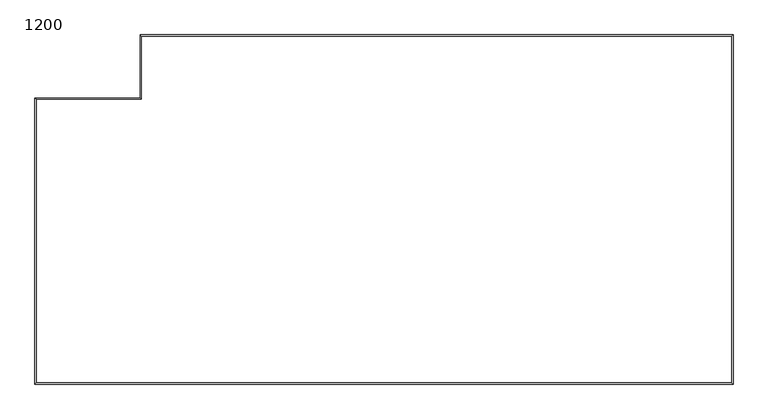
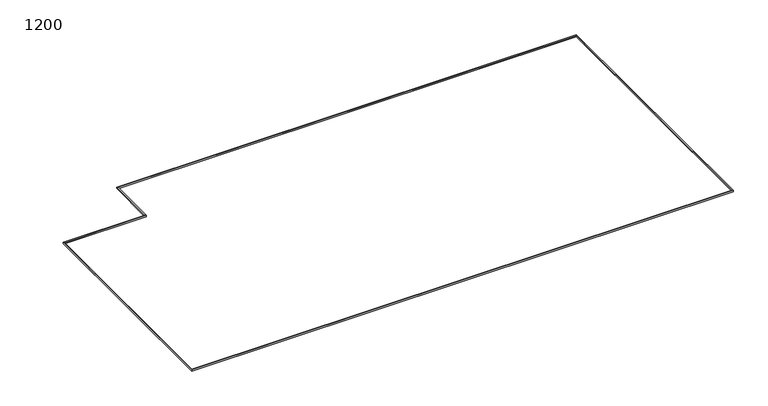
"""IFC4 building model written with IfcOpenShell, lengths in millimetres: railing geometry, 1200."""

from ifc_helpers import new_model, si_unit, origin, place, context, project, spatial, faceted_brep, source, transform, mapped, element, save


def railing_1200_e5c0dd45(model_context):
    return source(origin(), model_context, "Body", "Brep", [
        faceted_brep([(161205.4000001, 127625.3999987, 30073.8), (161205.4000001, 127625.3999987, 30150.0), (161205.4000001, 111574.5999987, 30150.0), (161205.4000001, 111574.5999987, 30073.8), (161154.6000001, 127574.5999987, 30073.8), (161154.6000001, 111625.3999987, 30073.8), (161154.6000001, 127574.5999987, 30150.0), (161154.6000001, 111625.3999987, 30150.0), (129154.6000001, 111574.5999987, 30150.0), (129154.6000001, 111574.5999987, 30073.8), (129205.4000001, 111625.3999987, 30073.8), (129205.4000001, 111625.3999987, 30150.0), (129154.6000001, 124725.3999987, 30150.0), (129154.6000001, 124725.3999987, 30073.8), (129205.4000001, 124674.5999987, 30073.8), (129205.4000001, 124674.5999987, 30150.0), (133994.6000001, 127625.3999987, 30073.8), (133994.6000001, 127625.3999987, 30150.0), (134045.4000001, 127574.5999987, 30073.8), (134045.4000001, 127574.5999987, 30150.0), (133994.6000001, 124725.3999987, 30150.0), (133994.6000001, 124725.3999987, 30073.8), (134045.4000001, 124674.5999987, 30073.8), (134045.4000001, 124674.5999987, 30150.0)], [[[0, 1, 2, 3]], [[4, 0, 3, 5]], [[6, 4, 5, 7]], [[1, 6, 7, 2]], [[3, 2, 8, 9]], [[5, 3, 9, 10]], [[7, 5, 10, 11]], [[2, 7, 11, 8]], [[9, 8, 12, 13]], [[10, 9, 13, 14]], [[11, 10, 14, 15]], [[8, 11, 15, 12]], [[16, 17, 1, 0]], [[18, 16, 0, 4]], [[19, 18, 4, 6]], [[17, 19, 6, 1]], [[13, 12, 20, 21]], [[14, 13, 21, 22]], [[15, 14, 22, 23]], [[12, 15, 23, 20]], [[21, 20, 17, 16]], [[22, 21, 16, 18]], [[23, 22, 18, 19]], [[20, 23, 19, 17]]]),
    ])


if __name__ == "__main__":
    model = new_model("IFC4")
    model_context = context("Model", 3, world=origin())
    ifc_project = project(units=[si_unit("LENGTHUNIT", "METRE", prefix="MILLI")], contexts=[model_context])
    site = spatial("IfcSite", under=ifc_project)
    building = spatial("IfcBuilding", under=site)
    placement = place(None, origin())
    railing_1200_shape = railing_1200_e5c0dd45(model_context)
    element("IfcRailing", 1, ObjectType="1200", at=placement, inside=building, context=model_context, shape_type="MappedRepresentation", body=[
        mapped(railing_1200_shape, transform((0.0, 0.0, 0.0), x_axis=(1.0, 0.0, 0.0), y_axis=(0.0, 1.0, 0.0), z_axis=(0.0, 0.0, 1.0))),
    ])
    save(model, "model.ifc")
